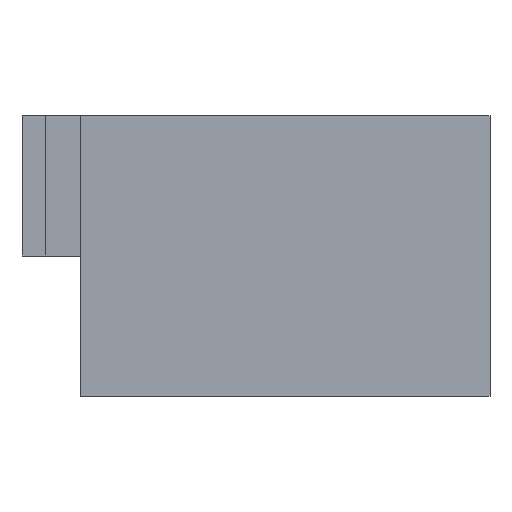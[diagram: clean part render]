
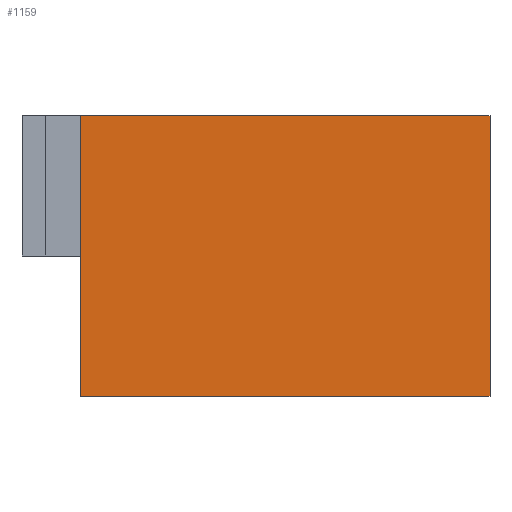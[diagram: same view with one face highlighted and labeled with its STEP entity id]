
A CAD part, front view. The second image highlights one B-rep face of the part: STEP entity #1159.
In plain terms, the highlighted planar face has unit normal (0, -1, 0).
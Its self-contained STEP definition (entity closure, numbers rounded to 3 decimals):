
#128=CARTESIAN_POINT('Line Origine',(66.25,-60.,11.25)) ;
#132=CARTESIAN_POINT('Vertex',(75.,-60.,11.25)) ;
#134=CARTESIAN_POINT('Vertex',(57.5,-60.,11.25)) ;
#673=CARTESIAN_POINT('Vertex',(75.,-60.,-0.75)) ;
#676=CARTESIAN_POINT('Line Origine',(66.25,-60.,-0.75)) ;
#680=CARTESIAN_POINT('Vertex',(57.5,-60.,-0.75)) ;
#1122=CARTESIAN_POINT('Line Origine',(75.,-60.,5.25)) ;
#1143=CARTESIAN_POINT('Axis2P3D Location',(75.,-60.,-0.75)) ;
#1148=CARTESIAN_POINT('Line Origine',(57.5,-60.,5.25)) ;
#129=DIRECTION('Vector Direction',(-1.,0.,0.)) ;
#677=DIRECTION('Vector Direction',(-1.,0.,0.)) ;
#1123=DIRECTION('Vector Direction',(0.,0.,1.)) ;
#1144=DIRECTION('Axis2P3D Direction',(-0.,-1.,0.)) ;
#1145=DIRECTION('Axis2P3D XDirection',(0.,0.,1.)) ;
#1149=DIRECTION('Vector Direction',(0.,0.,-1.)) ;
#1146=AXIS2_PLACEMENT_3D('Plane Axis2P3D',#1143,#1144,#1145) ;
#1154=ORIENTED_EDGE('',*,*,#682,.F.) ;
#1155=ORIENTED_EDGE('',*,*,#1126,.F.) ;
#1156=ORIENTED_EDGE('',*,*,#136,.T.) ;
#1157=ORIENTED_EDGE('',*,*,#1152,.T.) ;
#130=VECTOR('Line Direction',#129,1.) ;
#678=VECTOR('Line Direction',#677,1.) ;
#1124=VECTOR('Line Direction',#1123,1.) ;
#1150=VECTOR('Line Direction',#1149,1.) ;
#1159=ADVANCED_FACE('Corps principal',(#1158),#1147,.T.) ;
#136=EDGE_CURVE('',#133,#135,#131,.T.) ;
#682=EDGE_CURVE('',#674,#681,#679,.T.) ;
#1126=EDGE_CURVE('',#133,#674,#1125,.F.) ;
#1152=EDGE_CURVE('',#135,#681,#1151,.T.) ;
#1153=EDGE_LOOP('',(#1154,#1155,#1156,#1157)) ;
#1158=FACE_OUTER_BOUND('',#1153,.T.) ;
#131=LINE('Line',#128,#130) ;
#679=LINE('Line',#676,#678) ;
#1125=LINE('Line',#1122,#1124) ;
#1151=LINE('Line',#1148,#1150) ;
#1147=PLANE('Plane',#1146) ;
#133=VERTEX_POINT('',#132) ;
#135=VERTEX_POINT('',#134) ;
#674=VERTEX_POINT('',#673) ;
#681=VERTEX_POINT('',#680) ;
